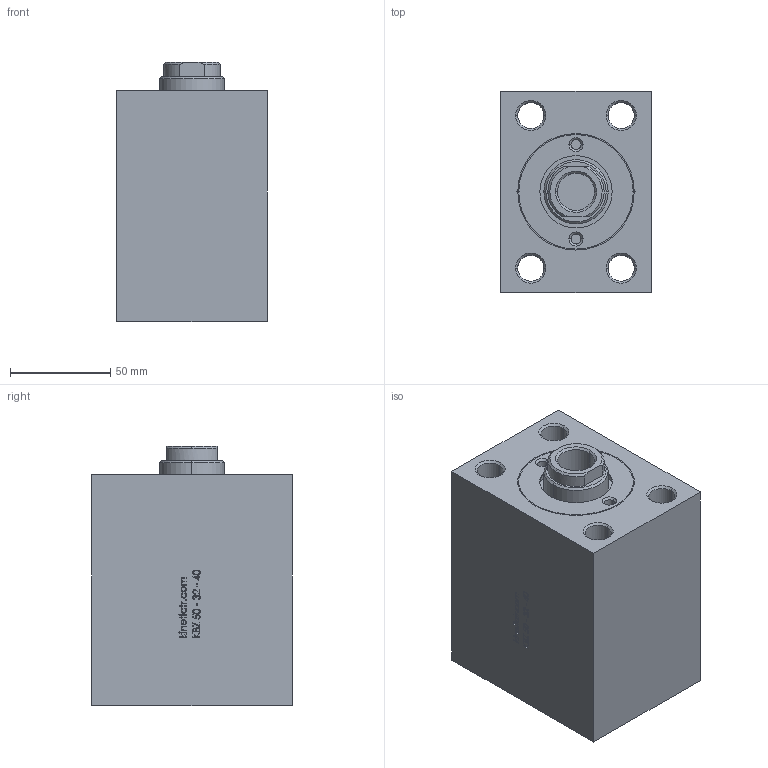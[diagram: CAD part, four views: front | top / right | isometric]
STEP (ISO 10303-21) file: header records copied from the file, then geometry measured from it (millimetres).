
FILE_DESCRIPTION (( 'STEP AP214' ), '1' );
FILE_NAME ('KBZ_02_50_32_50.STEP', '2018-12-29T15:59:25', ( '' ), ( '' ), 'SwSTEP 2.0', 'SolidWorks 2018', '' );
FILE_SCHEMA (( 'AUTOMOTIVE_DESIGN' ));
Length unit declared in the file: millimetre
Products named in the file (5): KBZ_50_PÝSTON; KBZ_02_50_32_50; 50-32-40-GOVDE; 32_M尳; KBZ_50-32_ON_KAPAK
Assembly tree (4 placements, depth 2):
  KBZ_02_50_32_50
    50-32-40-GOVDE
    32_M尳
    KBZ_50_PÝSTON
    KBZ_50-32_ON_KAPAK
Bounding box: 75 x 100 x 129 mm (x, y, z)
Volume: 717229.2 mm3; surface area: 127159.4 mm2
Topology: 4 solids, 4 shells, 481 faces, 1177 edges, 760 vertices
Faces by surface type: plane 211, bspline 124, cone 73, cylinder 73
Entity records: 21105 total; most frequent: CARTESIAN_POINT 10069, ORIENTED_EDGE 2354, DIRECTION 1864, EDGE_CURVE 1177, VERTEX_POINT 760, VECTOR 706, LINE 706, AXIS2_PLACEMENT_3D 579
